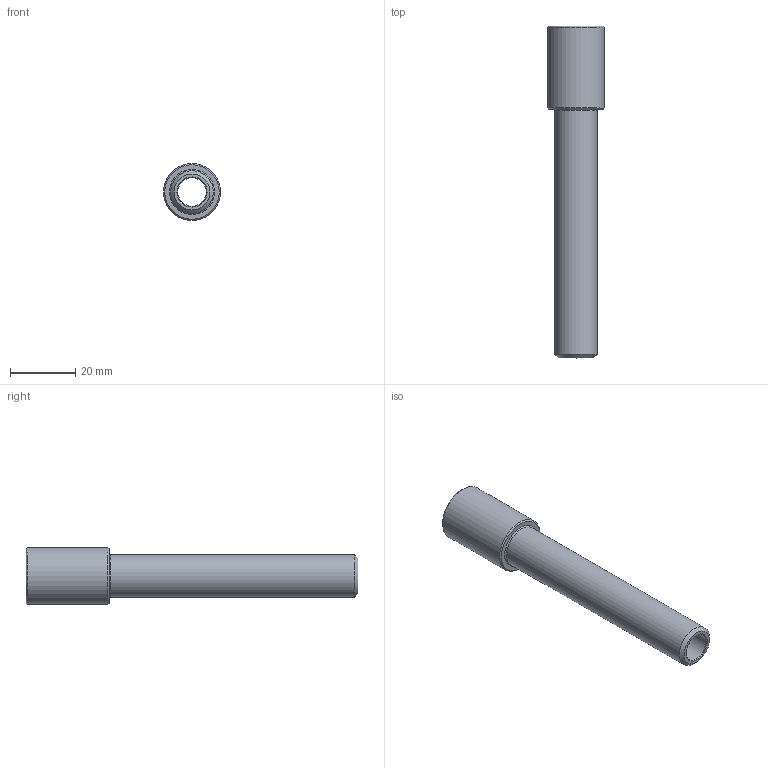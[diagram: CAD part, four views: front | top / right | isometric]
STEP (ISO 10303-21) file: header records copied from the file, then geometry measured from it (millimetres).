
FILE_DESCRIPTION(/* description */ (''),/* implementation_level */ '2;1');
FILE_NAME(/* name */ 'C:/Users/drich/Desktop/EP14X4 v1.step',/* time_stamp */ '2019-11-18T15:01:34-06:00',/* author */ (''),/* organization */ (''),/* preprocessor_version */ 'ST-DEVELOPER v18',/* originating_system */ 'Autodesk Translation Framework v8.12.0.6',/* authorisation */ '');
FILE_SCHEMA (('AUTOMOTIVE_DESIGN { 1 0 10303 214 3 1 1 }'));
Length unit declared in the file: inch
Products named in the file (2): EP14X4; EP14X4_1
Assembly tree (1 placements, depth 2):
  EP14X4
    EP14X4_1
Bounding box: 17.45 x 101.6 x 17.45 mm (x, y, z)
Volume: 9274.8 mm3; surface area: 7783.4 mm2
Topology: 1 solids, 1 shells, 23 faces, 55 edges, 37 vertices
Faces by surface type: plane 11, cone 7, cylinder 5
Full cylindrical faces by diameter (mm): 8.712 x1, 11.43 x1, 11.668 x1, 13.032 x1, 17.45 x1
Entity records: 740 total; most frequent: CARTESIAN_POINT 132, DIRECTION 124, ORIENTED_EDGE 110, EDGE_CURVE 55, AXIS2_PLACEMENT_3D 50, VERTEX_POINT 37, EDGE_LOOP 28, LINE 24
